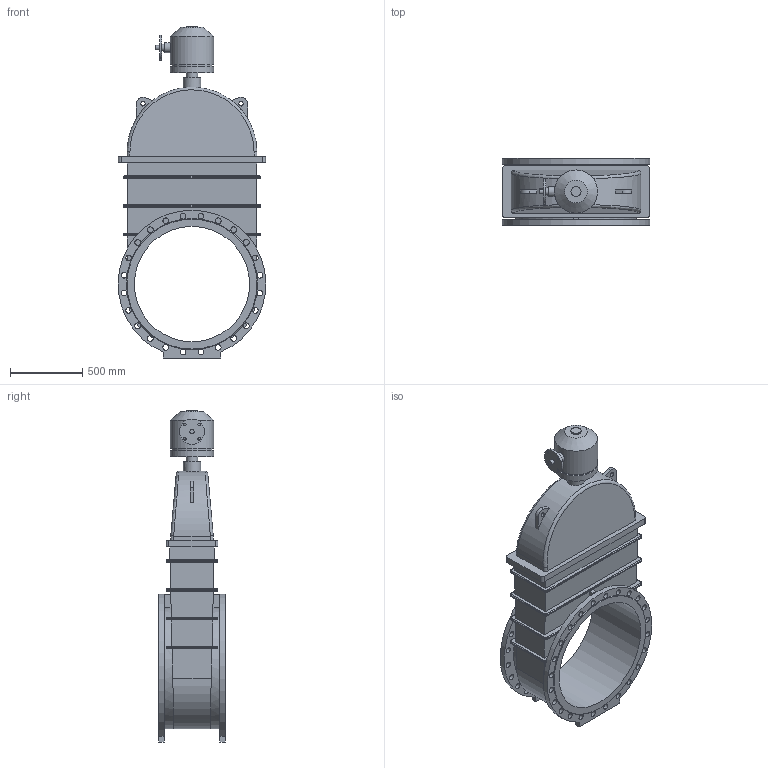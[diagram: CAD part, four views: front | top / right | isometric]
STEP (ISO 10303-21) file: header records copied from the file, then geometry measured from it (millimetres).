
FILE_DESCRIPTION(('STEP AP203'), '1');
FILE_NAME('Çàäâèæêà 47GV.Z DN800 PN10_PN16 + ðåäóêòîð ñ âõîäíûì ôëàíöåì', '', ('UNSPECIFIED'), ('UNSPECIFIED'), 'ASCON STEP Converter 1.6', 'ASCON Math Kernel', '');
FILE_SCHEMA(('CONFIG_CONTROL_DESIGN'));
Length unit declared in the file: millimetre
Bounding box: 1024.56 x 470 x 2302.5 mm (x, y, z)
Volume: 331896297.6 mm3; surface area: 7296692.6 mm2
Topology: 1 solids, 1 shells, 313 faces, 748 edges, 475 vertices
Faces by surface type: cylinder 154, plane 122, bspline 34, cone 3
Full cylindrical faces by diameter (mm): 14 x8, 18 x12, 30 x2, 40 x48, 50 x1, 70 x2, 80 x1, 120 x1, 175 x1, 280 x1, 300 x2, 800 x1
Entity records: 15038 total; most frequent: CARTESIAN_POINT 5545, DIRECTION 1366, ORIENTED_EDGE 1330, EDGE_CURVE 665, EDGE_LOOP 544, AXIS2_PLACEMENT_3D 535, VERTEX_POINT 475, FACE_BOUND 378
